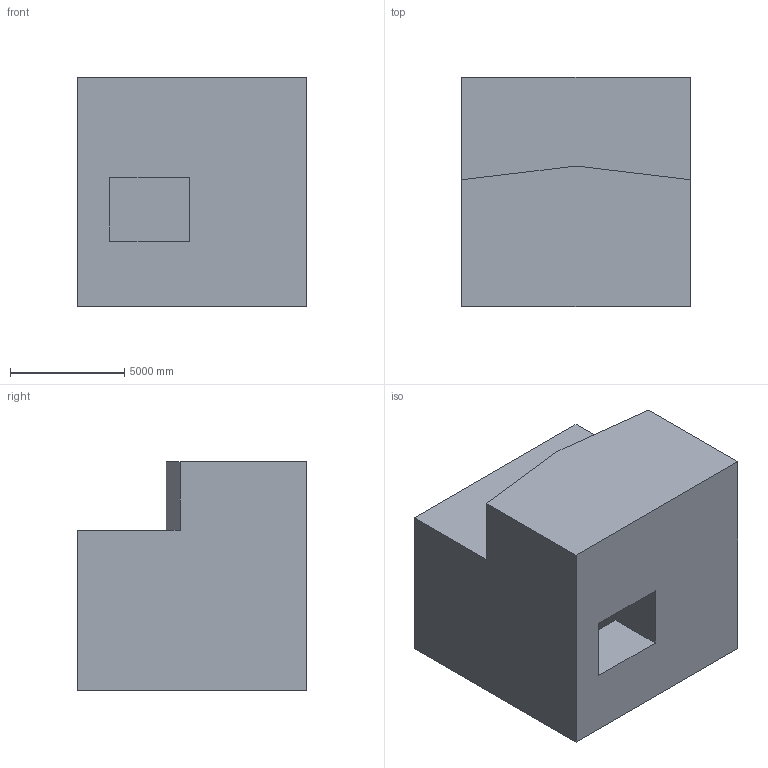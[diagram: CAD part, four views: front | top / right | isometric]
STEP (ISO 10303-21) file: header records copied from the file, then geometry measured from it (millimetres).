
FILE_DESCRIPTION (( 'STEP AP203' ), '1' );
FILE_NAME ('255.STEP', '2022-09-07T12:28:08', ( 'user' ), ( '' ), 'SwSTEP 2.0', 'SolidWorks 2021', '' );
FILE_SCHEMA (( 'CONFIG_CONTROL_DESIGN' ));
Length unit declared in the file: centimetre
Products named in the file (1): 255
Bounding box: 10000 x 10000 x 10000 mm (x, y, z)
Volume: 759596853571.8 mm3; surface area: 693913773.7 mm2
Topology: 1 solids, 1 shells, 19 faces, 51 edges, 34 vertices
Faces by surface type: plane 19
Entity records: 666 total; most frequent: CARTESIAN_POINT 105, ORIENTED_EDGE 102, DIRECTION 91, VECTOR 51, LINE 51, EDGE_CURVE 51, VERTEX_POINT 34, EDGE_LOOP 21
